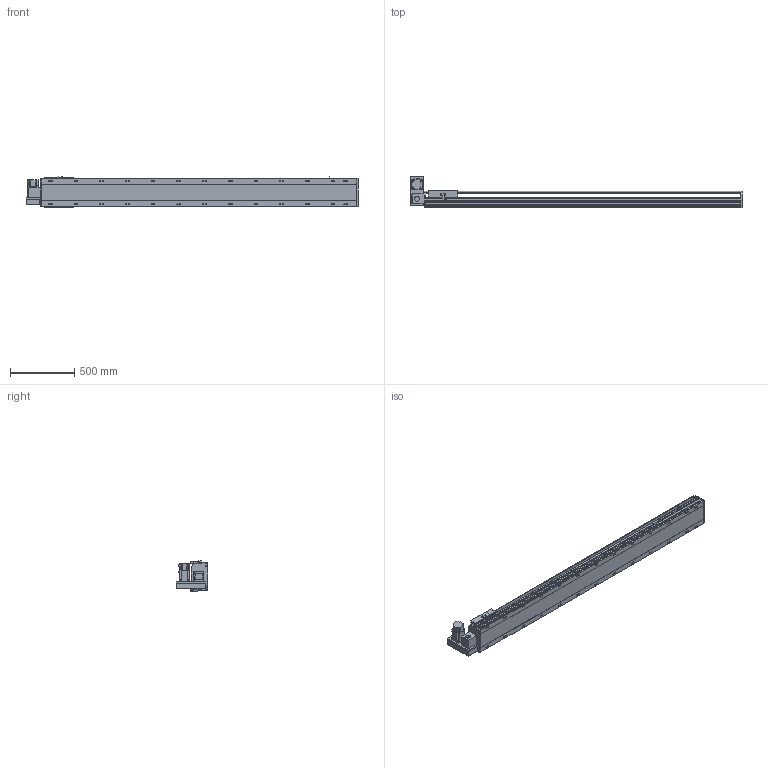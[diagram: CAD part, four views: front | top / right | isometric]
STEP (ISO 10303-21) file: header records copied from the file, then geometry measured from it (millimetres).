
FILE_DESCRIPTION(/* description */ ('STEP AP214'),/* implementation_level */ '2;1');
FILE_NAME(/* name */ 'PBS220-P40-S2100-LU-T75-C1-N(0)',/* time_stamp */ '2022-06-13T02:31:25+02:00',/* author */ ('License CC BY-ND 4.0'),/* organization */ ('CADENAS'),/* preprocessor_version */ 'ST-DEVELOPER v18.102',/* originating_system */ 'PARTsolutions',/* authorisation */ ' ');
FILE_SCHEMA (('AUTOMOTIVE_DESIGN {1 0 10303 214 3 1 1}'));
Length unit declared in the file: millimetre
Products named in the file (7): PBS220-P40-S2100-LU-T75-C1-N(0); PBS220_sensor; PBS220_plant; PBS220_sliser; T75-p1; PBS220T-LU_motors; PBS220-S2100()_body
Assembly tree (8 placements, depth 2):
  PBS220-P40-S2100-LU-T75-C1-N(0)
    PBS220_sensor  x3
    PBS220_plant
    PBS220_sliser
    T75-p1
    PBS220T-LU_motors
    PBS220-S2100()_body
Bounding box: 2584 x 247 x 238.5 mm (x, y, z)
Volume: 36269215.9 mm3; surface area: 3361706.3 mm2
Topology: 8 solids, 8 shells, 974 faces, 2536 edges, 1648 vertices
Faces by surface type: plane 618, cylinder 306, cone 50
Full cylindrical faces by diameter (mm): 2.013 x4, 4.5 x14, 4.917 x4, 6 x7, 6.647 x8, 8 x10, 8.376 x26, 8.5 x26, 10 x6, 14 x26, 38 x2, 40 x1, 70 x1
Entity records: 27189 total; most frequent: CARTESIAN_POINT 4822, DIRECTION 4725, ORIENTED_EDGE 4286, EDGE_CURVE 2143, AXIS2_PLACEMENT_3D 1685, VERTEX_POINT 1496, LINE 1355, VECTOR 1355
